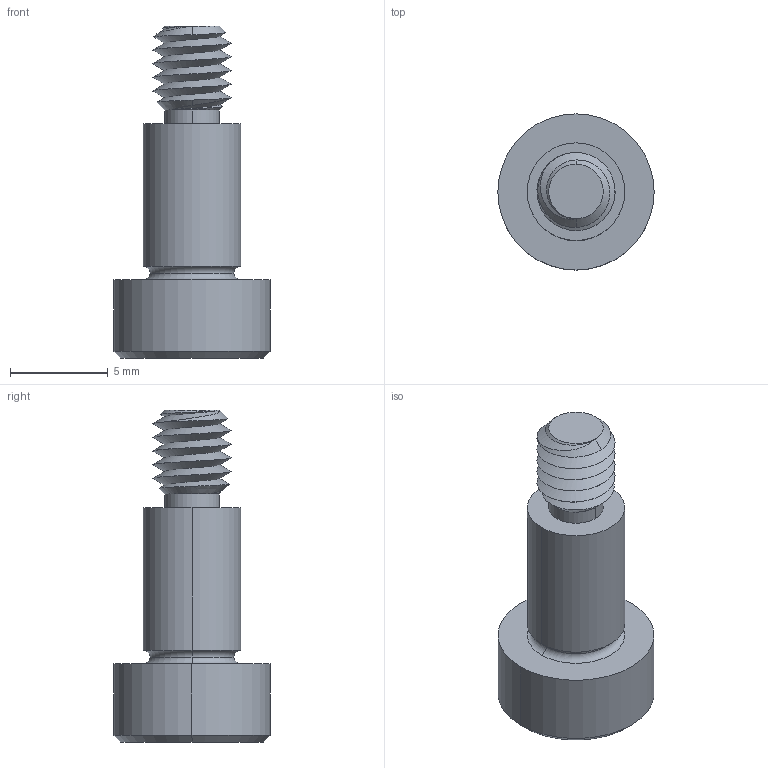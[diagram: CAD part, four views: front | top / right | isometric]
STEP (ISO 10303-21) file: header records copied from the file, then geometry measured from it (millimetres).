
FILE_DESCRIPTION (( 'STEP AP203' ), '1' );
FILE_NAME ('P0130.050-008-B2.step', '2021-11-09T21:12:47', ( '' ), ( '' ), 'SwSTEP 2.0', 'SolidWorks 2019', '' );
FILE_SCHEMA (( 'CONFIG_CONTROL_DESIGN' ));
Length unit declared in the file: millimetre
Products named in the file (1): P0130.050-008-B2
Bounding box: 8 x 8 x 17 mm (x, y, z)
Volume: 381.3 mm3; surface area: 441.1 mm2
Topology: 1 solids, 1 shells, 53 faces, 121 edges, 71 vertices
Faces by surface type: cylinder 16, plane 16, cone 15, torus 4, bspline 2
Entity records: 2151 total; most frequent: CARTESIAN_POINT 968, ORIENTED_EDGE 238, DIRECTION 226, EDGE_CURVE 119, AXIS2_PLACEMENT_3D 92, VERTEX_POINT 71, EDGE_LOOP 56, ADVANCED_FACE 53
